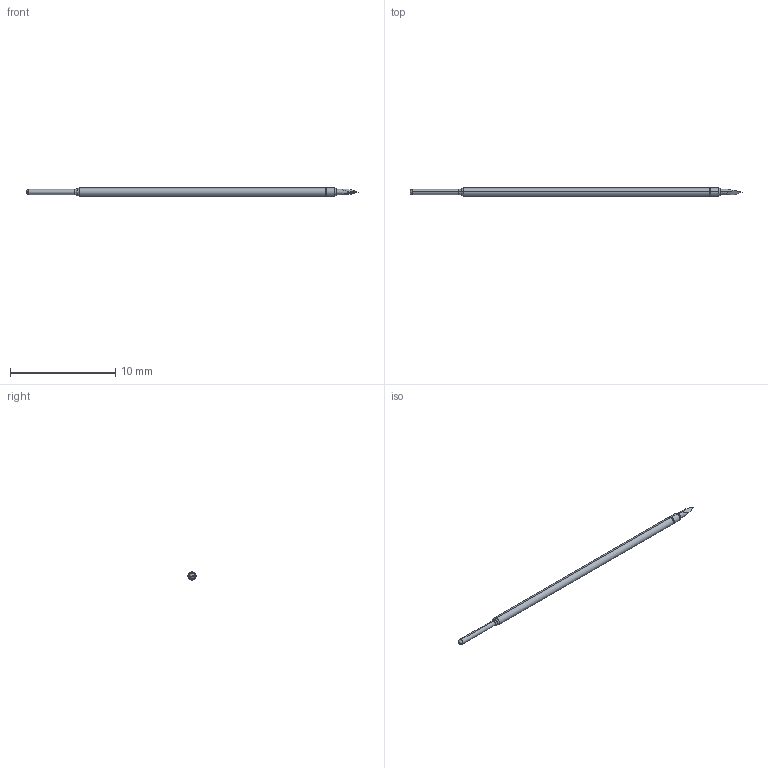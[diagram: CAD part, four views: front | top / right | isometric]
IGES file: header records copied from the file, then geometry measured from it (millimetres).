
Start section: SolidWorks IGES file using analytic representation for surfaces
Global section: file name: C:\Documents and Settings\mrumschlag\Desktop\changes\new\test\T1 FULL.IGS; native system: SolidWorks 2011; preprocessor: SolidWorks 2011; author: mrumschlag; date: 110630.142731; units: inch
Bounding box: 31.58 x 0.76 x 0.76 mm (x, y, z)
Surface area: 69.6 mm2 (no closed solid volume)
Topology: 0 solids, 0 shells, 26 faces, 166 edges, 164 vertices
Faces by surface type: revolution 14, bspline 12
